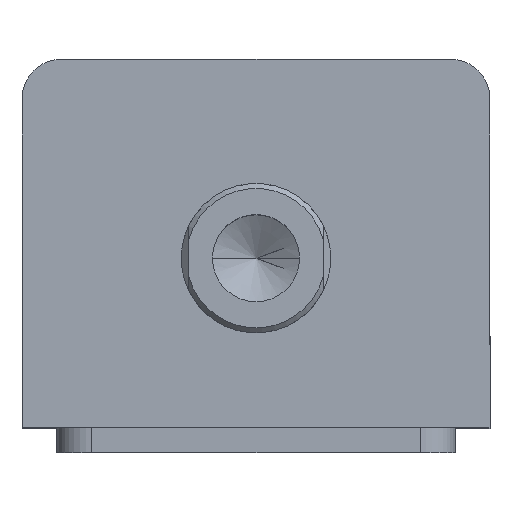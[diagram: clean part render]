
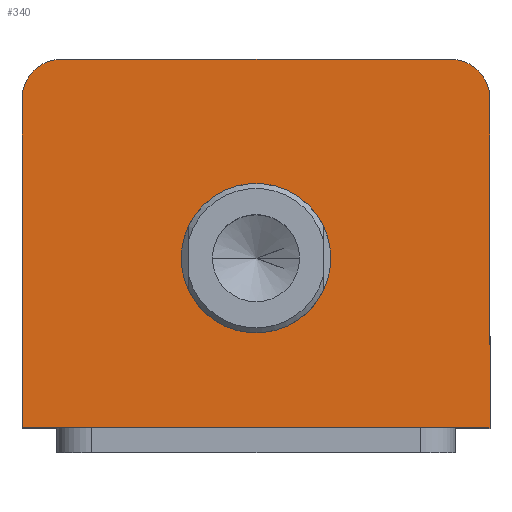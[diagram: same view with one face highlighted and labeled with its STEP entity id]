
A CAD part, top view. The second image highlights one B-rep face of the part: STEP entity #340.
In plain terms, the highlighted planar face has unit normal (0, 0, 1).
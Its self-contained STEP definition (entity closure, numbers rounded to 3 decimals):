
#80 = EDGE_CURVE ( 'NONE', #2280, #2252, #1954, .T. ) ;
#104 = EDGE_CURVE ( 'NONE', #2346, #2311, #1759, .T. ) ;
#128 = EDGE_CURVE ( 'NONE', #2261, #2254, #1718, .T. ) ;
#141 = EDGE_CURVE ( 'NONE', #2311, #2261, #1701, .T. ) ;
#151 = EDGE_CURVE ( 'NONE', #2254, #2277, #1689, .T. ) ;
#157 = EDGE_CURVE ( 'NONE', #2353, #2346, #1679, .T. ) ;
#165 = EDGE_CURVE ( 'NONE', #2277, #2353, #1676, .T. ) ;
#174 = EDGE_CURVE ( 'NONE', #2252, #2280, #1634, .T. ) ;
#193 = AXIS2_PLACEMENT_3D ( 'NONE', #2749, #2748, #2746 ) ;
#213 = AXIS2_PLACEMENT_3D ( 'NONE', #2596, #2595, #2593 ) ;
#221 = AXIS2_PLACEMENT_3D ( 'NONE', #2559, #2558, #2557 ) ;
#226 = AXIS2_PLACEMENT_3D ( 'NONE', #1881, #1770, #1781 ) ;
#266 = AXIS2_PLACEMENT_3D ( 'NONE', #2123, #2112, #2111 ) ;
#340 = ADVANCED_FACE ( 'NONE', ( #722, #728 ), #2120, .T. ) ;
#590 = ORIENTED_EDGE ( 'NONE', *, *, #174, .F. ) ;
#603 = ORIENTED_EDGE ( 'NONE', *, *, #165, .T. ) ;
#610 = ORIENTED_EDGE ( 'NONE', *, *, #80, .F. ) ;
#613 = ORIENTED_EDGE ( 'NONE', *, *, #128, .T. ) ;
#633 = ORIENTED_EDGE ( 'NONE', *, *, #157, .T. ) ;
#635 = ORIENTED_EDGE ( 'NONE', *, *, #104, .T. ) ;
#637 = ORIENTED_EDGE ( 'NONE', *, *, #141, .T. ) ;
#642 = ORIENTED_EDGE ( 'NONE', *, *, #151, .T. ) ;
#722 = FACE_BOUND ( 'NONE', #2137, .T. ) ;
#728 = FACE_OUTER_BOUND ( 'NONE', #2151, .T. ) ;
#1373 = CARTESIAN_POINT ( 'NONE',  ( 15., -3., 130. ) ) ;
#1375 = CARTESIAN_POINT ( 'NONE',  ( -39., 37., 130. ) ) ;
#1382 = CARTESIAN_POINT ( 'NONE',  ( 39., 37., 130. ) ) ;
#1398 = CARTESIAN_POINT ( 'NONE',  ( -47., 29., 130. ) ) ;
#1401 = CARTESIAN_POINT ( 'NONE',  ( -15., -3., 130. ) ) ;
#1432 = CARTESIAN_POINT ( 'NONE',  ( 47., 29., 130. ) ) ;
#1467 = CARTESIAN_POINT ( 'NONE',  ( 47., -37., 130. ) ) ;
#1474 = CARTESIAN_POINT ( 'NONE',  ( -47., -37., 130. ) ) ;
#1634 = CIRCLE ( 'NONE', #226, 15. ) ;
#1644 = VECTOR ( 'NONE', #2662, 1000. ) ;
#1668 = VECTOR ( 'NONE', #1892, 1000. ) ;
#1676 = LINE ( 'NONE', #1842, #1749 ) ;
#1679 = LINE ( 'NONE', #1893, #1668 ) ;
#1689 = CIRCLE ( 'NONE', #221, 8. ) ;
#1701 = CIRCLE ( 'NONE', #213, 8. ) ;
#1714 = VECTOR ( 'NONE', #2642, 1000. ) ;
#1718 = LINE ( 'NONE', #2635, #1714 ) ;
#1749 = VECTOR ( 'NONE', #1847, 1000. ) ;
#1759 = LINE ( 'NONE', #2655, #1644 ) ;
#1770 = DIRECTION ( 'NONE',  ( 0., 0., 1. ) ) ;
#1781 = DIRECTION ( 'NONE',  ( 1., 0., 0. ) ) ;
#1842 = CARTESIAN_POINT ( 'NONE',  ( -47., 37., 130. ) ) ;
#1847 = DIRECTION ( 'NONE',  ( 0., -1., 0. ) ) ;
#1881 = CARTESIAN_POINT ( 'NONE',  ( 0., -3., 130. ) ) ;
#1892 = DIRECTION ( 'NONE',  ( 1., 0., 0. ) ) ;
#1893 = CARTESIAN_POINT ( 'NONE',  ( -47., -37., 130. ) ) ;
#1954 = CIRCLE ( 'NONE', #193, 15. ) ;
#2111 = DIRECTION ( 'NONE',  ( 1., 0., 0. ) ) ;
#2112 = DIRECTION ( 'NONE',  ( 0., 0., 1. ) ) ;
#2120 = PLANE ( 'NONE',  #266 ) ;
#2123 = CARTESIAN_POINT ( 'NONE',  ( 0., 0., 130. ) ) ;
#2137 = EDGE_LOOP ( 'NONE', ( #590, #610 ) ) ;
#2151 = EDGE_LOOP ( 'NONE', ( #613, #642, #603, #633, #635, #637 ) ) ;
#2252 = VERTEX_POINT ( 'NONE', #1373 ) ;
#2254 = VERTEX_POINT ( 'NONE', #1375 ) ;
#2261 = VERTEX_POINT ( 'NONE', #1382 ) ;
#2277 = VERTEX_POINT ( 'NONE', #1398 ) ;
#2280 = VERTEX_POINT ( 'NONE', #1401 ) ;
#2311 = VERTEX_POINT ( 'NONE', #1432 ) ;
#2346 = VERTEX_POINT ( 'NONE', #1467 ) ;
#2353 = VERTEX_POINT ( 'NONE', #1474 ) ;
#2557 = DIRECTION ( 'NONE',  ( 1., 0., 0. ) ) ;
#2558 = DIRECTION ( 'NONE',  ( 0., 0., 1. ) ) ;
#2559 = CARTESIAN_POINT ( 'NONE',  ( -39., 29., 130. ) ) ;
#2593 = DIRECTION ( 'NONE',  ( 1., 0., 0. ) ) ;
#2595 = DIRECTION ( 'NONE',  ( 0., 0., 1. ) ) ;
#2596 = CARTESIAN_POINT ( 'NONE',  ( 39., 29., 130. ) ) ;
#2635 = CARTESIAN_POINT ( 'NONE',  ( -47., 37., 130. ) ) ;
#2642 = DIRECTION ( 'NONE',  ( -1., 0., 0. ) ) ;
#2655 = CARTESIAN_POINT ( 'NONE',  ( 47., 37., 130. ) ) ;
#2662 = DIRECTION ( 'NONE',  ( 0., 1., 0. ) ) ;
#2746 = DIRECTION ( 'NONE',  ( 1., 0., 0. ) ) ;
#2748 = DIRECTION ( 'NONE',  ( 0., 0., 1. ) ) ;
#2749 = CARTESIAN_POINT ( 'NONE',  ( 0., -3., 130. ) ) ;
